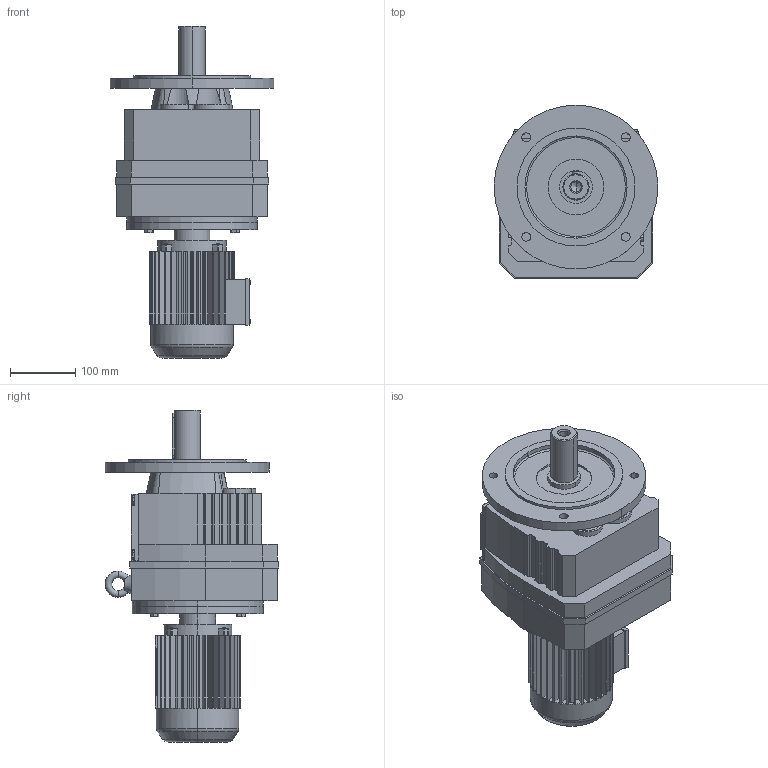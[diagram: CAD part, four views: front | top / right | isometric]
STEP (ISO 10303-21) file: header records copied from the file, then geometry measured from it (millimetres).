
FILE_DESCRIPTION(('Open CASCADE Model'),'2;1');
FILE_NAME('Open CASCADE Shape Model','2021-07-13T17:13:04',('Author'),( 'Open CASCADE'),'Open CASCADE STEP processor 6.3','Open CASCADE 6.3' ,'Unknown');
FILE_SCHEMA(('AUTOMOTIVE_DESIGN_CC2 { 1 2 10303 214 -1 1 5 4 }'));
Length unit declared in the file: millimetre
Products named in the file (3): 1_RF77-Y63S-250; RF37‵167_77_250.step; 萇儂_200_Y63S.step
Assembly tree (2 placements, depth 2):
  1_RF77-Y63S-250
    RF37‵167_77_250.step
    萇儂_200_Y63S.step
Bounding box: 250 x 265.5 x 507 mm (x, y, z)
Volume: 11214794.8 mm3; surface area: 634584.4 mm2
Topology: 2 solids, 2 shells, 739 faces, 1955 edges, 1262 vertices
Faces by surface type: plane 516, cylinder 191, cone 20, torus 12
Entity records: 51726 total; most frequent: CARTESIAN_POINT 14387, DIRECTION 6512, ORIENTED_EDGE 3906, PCURVE 3906, DEFINITIONAL_REPRESENTATION 3906, LINE 3574, VECTOR 3574, EDGE_CURVE 1953
